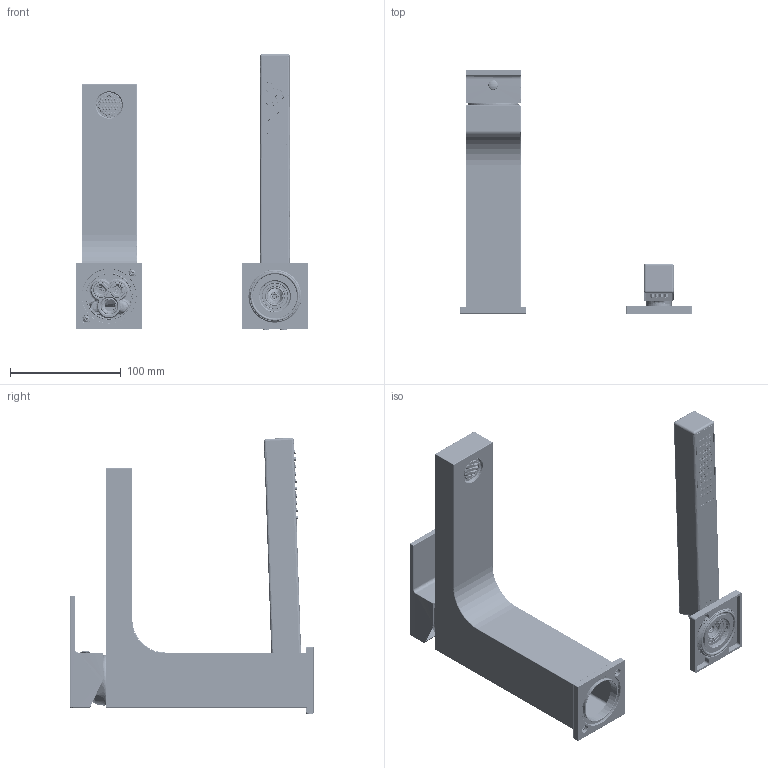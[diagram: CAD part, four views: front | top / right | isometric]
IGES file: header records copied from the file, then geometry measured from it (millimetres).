
Start section: SolidWorks IGES file using analytic representation for surfaces
Global section: file name: C:\Users\ccai\Desktop\CeliaC\Projects\0920-ADHOC-02495&02496 Neutral File#3\SKU_QA02NSERIES_IGS\DUP_QA02NSERIES.IGS; native system: SolidWorks 2023; preprocessor: SolidWorks 2023; author: ccai; date: 240918.151305; units: millimetre
Bounding box: 210 x 221.44 x 249.91 mm (x, y, z)
Surface area: 301412.2 mm2 (no closed solid volume)
Topology: 0 solids, 0 shells, 12664 faces, 109874 edges, 110003 vertices
Faces by surface type: bspline 8867, revolution 3797
